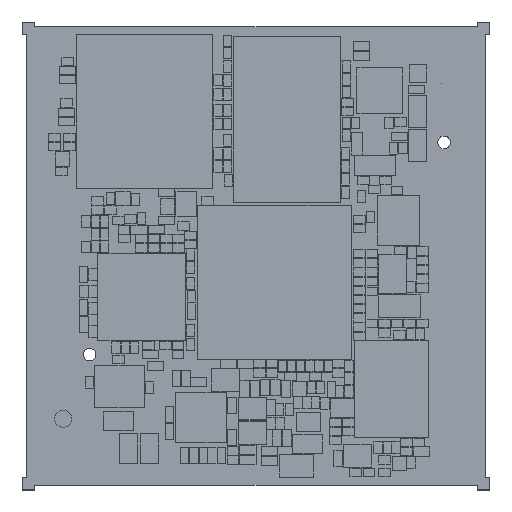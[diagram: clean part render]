
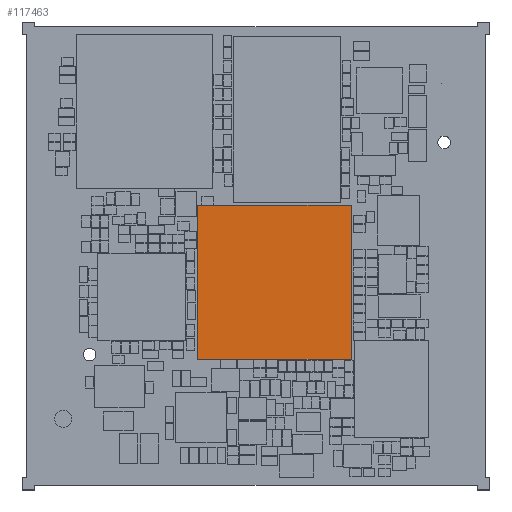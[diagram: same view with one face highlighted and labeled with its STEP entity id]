
A CAD part, top view. The second image highlights one B-rep face of the part: STEP entity #117463.
In plain terms, the highlighted planar face has unit normal (0, 0, 1).
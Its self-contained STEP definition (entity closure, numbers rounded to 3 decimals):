
#142 = DIRECTION ( 'NONE',  ( -1., 0., 0. ) ) ;
#557 = CARTESIAN_POINT ( 'NONE',  ( 22., 18.1, 0.9 ) ) ;
#2654 = VECTOR ( 'NONE', #113070, 1000. ) ;
#11015 = DIRECTION ( 'NONE',  ( 1., 0., 0. ) ) ;
#32083 = CARTESIAN_POINT ( 'NONE',  ( 15.3, 24.8, 0.9 ) ) ;
#34833 = CARTESIAN_POINT ( 'NONE',  ( 28.7, 11.4, 0.9 ) ) ;
#39839 = VERTEX_POINT ( 'NONE', #63400 ) ;
#41174 = EDGE_CURVE ( 'NONE', #101283, #73124, #134185, .T. ) ;
#42988 = LINE ( 'NONE', #101070, #59067 ) ;
#53359 = PLANE ( 'NONE',  #99879 ) ;
#59067 = VECTOR ( 'NONE', #89172, 1000. ) ;
#60407 = CARTESIAN_POINT ( 'NONE',  ( 15.3, 24.8, 0.9 ) ) ;
#62299 = VECTOR ( 'NONE', #142, 1000. ) ;
#63400 = CARTESIAN_POINT ( 'NONE',  ( 28.7, 24.8, 0.9 ) ) ;
#67262 = EDGE_CURVE ( 'NONE', #81187, #39839, #125748, .T. ) ;
#73124 = VERTEX_POINT ( 'NONE', #117956 ) ;
#77506 = DIRECTION ( 'NONE',  ( 0., -1., 0. ) ) ;
#81187 = VERTEX_POINT ( 'NONE', #112251 ) ;
#83759 = EDGE_LOOP ( 'NONE', ( #116351, #126060, #145707, #146066 ) ) ;
#88082 = EDGE_CURVE ( 'NONE', #39839, #101283, #136463, .T. ) ;
#89172 = DIRECTION ( 'NONE',  ( 1., 0., 0. ) ) ;
#92863 = DIRECTION ( 'NONE',  ( 0., 0., 1. ) ) ;
#99879 = AXIS2_PLACEMENT_3D ( 'NONE', #557, #92863, #11015 ) ;
#101070 = CARTESIAN_POINT ( 'NONE',  ( 15.3, 11.4, 0.9 ) ) ;
#101283 = VERTEX_POINT ( 'NONE', #60407 ) ;
#112251 = CARTESIAN_POINT ( 'NONE',  ( 28.7, 11.4, 0.9 ) ) ;
#113070 = DIRECTION ( 'NONE',  ( 0., 1., 0. ) ) ;
#116351 = ORIENTED_EDGE ( 'NONE', *, *, #124949, .T. ) ;
#117463 = ADVANCED_FACE ( 'NONE', ( #122062 ), #53359, .T. ) ;
#117956 = CARTESIAN_POINT ( 'NONE',  ( 15.3, 11.4, 0.9 ) ) ;
#119130 = VECTOR ( 'NONE', #77506, 1000. ) ;
#122062 = FACE_OUTER_BOUND ( 'NONE', #83759, .T. ) ;
#124949 = EDGE_CURVE ( 'NONE', #73124, #81187, #42988, .T. ) ;
#125748 = LINE ( 'NONE', #34833, #2654 ) ;
#126060 = ORIENTED_EDGE ( 'NONE', *, *, #67262, .T. ) ;
#134185 = LINE ( 'NONE', #32083, #119130 ) ;
#136463 = LINE ( 'NONE', #146109, #62299 ) ;
#145707 = ORIENTED_EDGE ( 'NONE', *, *, #88082, .T. ) ;
#146066 = ORIENTED_EDGE ( 'NONE', *, *, #41174, .T. ) ;
#146109 = CARTESIAN_POINT ( 'NONE',  ( 28.7, 24.8, 0.9 ) ) ;
